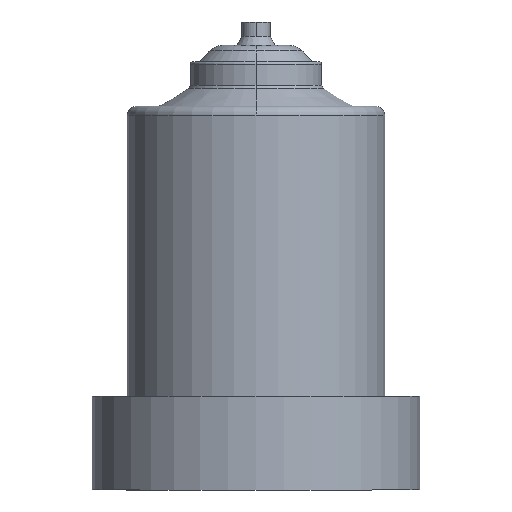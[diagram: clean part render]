
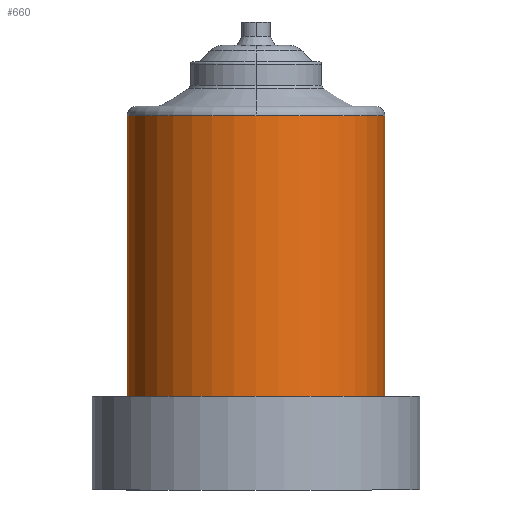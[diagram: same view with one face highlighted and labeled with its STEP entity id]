
A CAD part, front view. The second image highlights one B-rep face of the part: STEP entity #660.
In plain terms, the highlighted cylindrical face has radius 27.5 mm (diameter 55 mm), a partial arc.
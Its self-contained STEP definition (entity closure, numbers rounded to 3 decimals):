
#11 = ORIENTED_EDGE ( 'NONE', *, *, #128, .T. ) ;
#26 = DIRECTION ( 'NONE',  ( 0., 0., 1. ) ) ;
#41 = CARTESIAN_POINT ( 'NONE',  ( 27.5, 0., 95. ) ) ;
#61 = DIRECTION ( 'NONE',  ( 0., 0., -1. ) ) ;
#73 = DIRECTION ( 'NONE',  ( 0., 0., -1. ) ) ;
#81 = EDGE_LOOP ( 'NONE', ( #11, #354, #522, #763, #493 ) ) ;
#87 = VECTOR ( 'NONE', #61, 1000. ) ;
#117 = VECTOR ( 'NONE', #625, 1000. ) ;
#128 = EDGE_CURVE ( 'NONE', #383, #610, #802, .T. ) ;
#137 = DIRECTION ( 'NONE',  ( 0., 0., -1. ) ) ;
#157 = EDGE_CURVE ( 'NONE', #259, #470, #315, .T. ) ;
#199 = CARTESIAN_POINT ( 'NONE',  ( 27.5, 0., 88. ) ) ;
#200 = LINE ( 'NONE', #199, #87 ) ;
#259 = VERTEX_POINT ( 'NONE', #756 ) ;
#283 = CARTESIAN_POINT ( 'NONE',  ( 0., 0., 88. ) ) ;
#300 = FACE_OUTER_BOUND ( 'NONE', #81, .T. ) ;
#307 = EDGE_CURVE ( 'NONE', #610, #259, #673, .T. ) ;
#315 = LINE ( 'NONE', #817, #117 ) ;
#318 = CARTESIAN_POINT ( 'NONE',  ( 0., 0., 95. ) ) ;
#337 = DIRECTION ( 'NONE',  ( 0., 1., 0. ) ) ;
#347 = AXIS2_PLACEMENT_3D ( 'NONE', #318, #772, #496 ) ;
#350 = CARTESIAN_POINT ( 'NONE',  ( 0., 0., 35. ) ) ;
#354 = ORIENTED_EDGE ( 'NONE', *, *, #307, .T. ) ;
#383 = VERTEX_POINT ( 'NONE', #41 ) ;
#399 = AXIS2_PLACEMENT_3D ( 'NONE', #520, #137, #337 ) ;
#400 = CARTESIAN_POINT ( 'NONE',  ( 0., -27.5, 95. ) ) ;
#445 = CARTESIAN_POINT ( 'NONE',  ( -27.5, 0., 35. ) ) ;
#456 = EDGE_CURVE ( 'NONE', #383, #822, #200, .T. ) ;
#460 = CIRCLE ( 'NONE', #664, 27.5 ) ;
#467 = DIRECTION ( 'NONE',  ( -1., 0., 0. ) ) ;
#470 = VERTEX_POINT ( 'NONE', #445 ) ;
#493 = ORIENTED_EDGE ( 'NONE', *, *, #456, .F. ) ;
#496 = DIRECTION ( 'NONE',  ( 0., 1., 0. ) ) ;
#520 = CARTESIAN_POINT ( 'NONE',  ( 0., 0., 95. ) ) ;
#521 = DIRECTION ( 'NONE',  ( 1., 0., 0. ) ) ;
#522 = ORIENTED_EDGE ( 'NONE', *, *, #157, .T. ) ;
#610 = VERTEX_POINT ( 'NONE', #400 ) ;
#625 = DIRECTION ( 'NONE',  ( 0., 0., -1. ) ) ;
#660 = ADVANCED_FACE ( 'NONE', ( #300 ), #827, .T. ) ;
#664 = AXIS2_PLACEMENT_3D ( 'NONE', #350, #26, #467 ) ;
#673 = CIRCLE ( 'NONE', #347, 27.5 ) ;
#756 = CARTESIAN_POINT ( 'NONE',  ( -27.5, 0., 95. ) ) ;
#762 = CARTESIAN_POINT ( 'NONE',  ( 27.5, 0., 35. ) ) ;
#763 = ORIENTED_EDGE ( 'NONE', *, *, #770, .T. ) ;
#770 = EDGE_CURVE ( 'NONE', #470, #822, #460, .T. ) ;
#772 = DIRECTION ( 'NONE',  ( 0., 0., -1. ) ) ;
#802 = CIRCLE ( 'NONE', #399, 27.5 ) ;
#816 = AXIS2_PLACEMENT_3D ( 'NONE', #283, #73, #521 ) ;
#817 = CARTESIAN_POINT ( 'NONE',  ( -27.5, 0., 88. ) ) ;
#822 = VERTEX_POINT ( 'NONE', #762 ) ;
#827 = CYLINDRICAL_SURFACE ( 'NONE', #816, 27.5 ) ;
